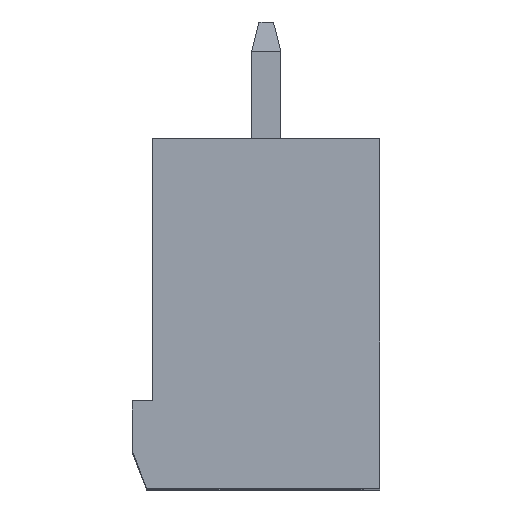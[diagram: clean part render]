
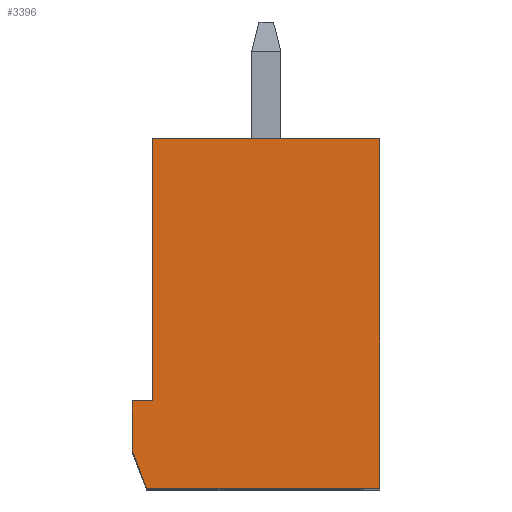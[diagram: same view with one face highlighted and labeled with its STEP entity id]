
A CAD part, top view. The second image highlights one B-rep face of the part: STEP entity #3396.
In plain terms, the highlighted planar face has unit normal (0, 0, 1).
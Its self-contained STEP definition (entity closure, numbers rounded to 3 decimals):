
#3396=ADVANCED_FACE('',(#7212),#7214,.F.);
#7212=FACE_BOUND('',#7213,.T.);
#7213=EDGE_LOOP('',(#10095,#10096,#10097,#10098,#10099,#10100,#10101));
#7214=PLANE('',#7215);
#7215=AXIS2_PLACEMENT_3D('',#7216,#7217,#7218);
#7216=CARTESIAN_POINT('',(0.,0.,31.18));
#7217=DIRECTION('',(0.,0.,-1.));
#7218=DIRECTION('',(-1.,0.,0.));
#10095=ORIENTED_EDGE('',*,*,#10794,.T.);
#10096=ORIENTED_EDGE('',*,*,#10769,.T.);
#10097=ORIENTED_EDGE('',*,*,#10746,.T.);
#10098=ORIENTED_EDGE('',*,*,#10743,.T.);
#10099=ORIENTED_EDGE('',*,*,#10740,.T.);
#10100=ORIENTED_EDGE('',*,*,#11730,.F.);
#10101=ORIENTED_EDGE('',*,*,#10812,.T.);
#10740=EDGE_CURVE('',#12045,#12043,#12046,.T.);
#10743=EDGE_CURVE('',#12050,#12045,#12051,.T.);
#10746=EDGE_CURVE('',#12055,#12050,#12056,.T.);
#10769=EDGE_CURVE('',#12100,#12055,#12101,.T.);
#10794=EDGE_CURVE('',#12143,#12100,#12144,.T.);
#10812=EDGE_CURVE('',#12178,#12143,#12179,.T.);
#11730=EDGE_CURVE('',#12178,#12043,#13660,.T.);
#12043=VERTEX_POINT('',#14169);
#12045=VERTEX_POINT('',#14173);
#12046=LINE('',#14174,#14175);
#12050=VERTEX_POINT('',#14184);
#12051=LINE('',#14185,#14186);
#12055=VERTEX_POINT('',#14195);
#12056=LINE('',#14196,#14197);
#12100=VERTEX_POINT('',#14286);
#12101=LINE('',#14287,#14288);
#12143=VERTEX_POINT('',#14379);
#12144=LINE('',#14380,#14381);
#12178=VERTEX_POINT('',#14479);
#12179=LINE('',#14480,#14481);
#13660=LINE('',#18694,#18695);
#14169=CARTESIAN_POINT('',(-4.6,1.3,31.18));
#14173=CARTESIAN_POINT('',(-4.6,3.,31.18));
#14174=CARTESIAN_POINT('',(-4.6,3.,31.18));
#14175=VECTOR('',#14176,1.);
#14176=DIRECTION('',(0.,-1.,0.));
#14184=CARTESIAN_POINT('',(-3.9,3.,31.18));
#14185=CARTESIAN_POINT('',(-3.9,3.,31.18));
#14186=VECTOR('',#14187,1.);
#14187=DIRECTION('',(-1.,0.,0.));
#14195=CARTESIAN_POINT('',(-3.9,12.,31.18));
#14196=CARTESIAN_POINT('',(-3.9,12.,31.18));
#14197=VECTOR('',#14198,1.);
#14198=DIRECTION('',(0.,-1.,0.));
#14286=CARTESIAN_POINT('',(3.9,12.,31.18));
#14287=CARTESIAN_POINT('',(3.9,12.,31.18));
#14288=VECTOR('',#14289,1.);
#14289=DIRECTION('',(-1.,0.,0.));
#14379=CARTESIAN_POINT('',(3.9,0.,31.18));
#14380=CARTESIAN_POINT('',(3.9,0.,31.18));
#14381=VECTOR('',#14382,1.);
#14382=DIRECTION('',(0.,1.,0.));
#14479=CARTESIAN_POINT('',(-4.1,0.,31.18));
#14480=CARTESIAN_POINT('',(-4.1,0.,31.18));
#14481=VECTOR('',#14482,1.);
#14482=DIRECTION('',(1.,0.,0.));
#18694=CARTESIAN_POINT('',(-4.1,0.,31.18));
#18695=VECTOR('',#18696,1.);
#18696=DIRECTION('',(-0.359,0.933,0.));
